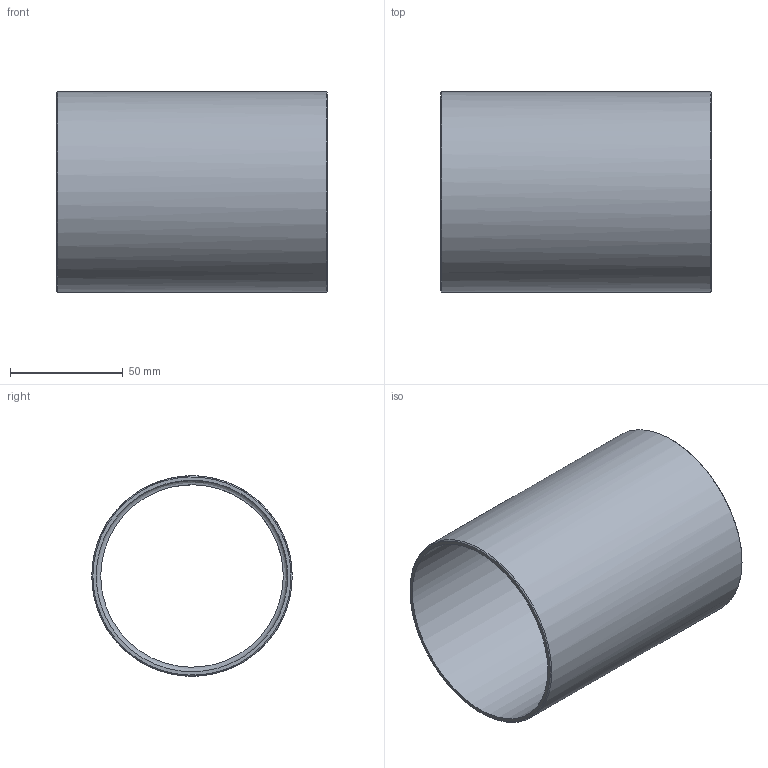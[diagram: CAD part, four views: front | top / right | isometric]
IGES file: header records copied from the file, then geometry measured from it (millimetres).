
Global section: file name: C13AL; native system: Autodesk Inventor 2023; preprocessor: unknown; author: lvalentini; date: 20230921.085005; units: millimetre
Bounding box: 120 x 88.9 x 88.83 mm (x, y, z)
Volume: 88186.5 mm3; surface area: 66789.4 mm2
Topology: 1 solids, 1 shells, 8 faces, 22 edges, 16 vertices
Faces by surface type: bspline 8
